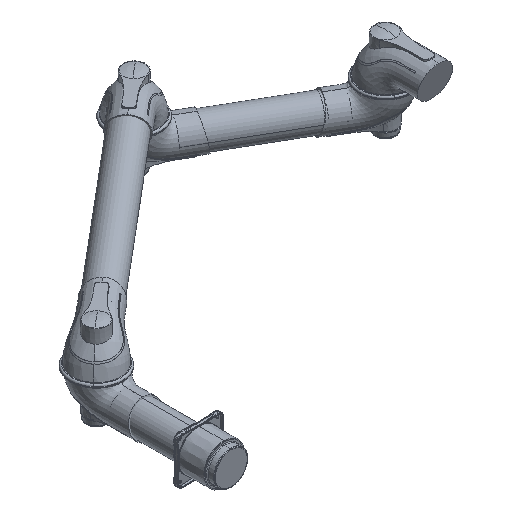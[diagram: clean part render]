
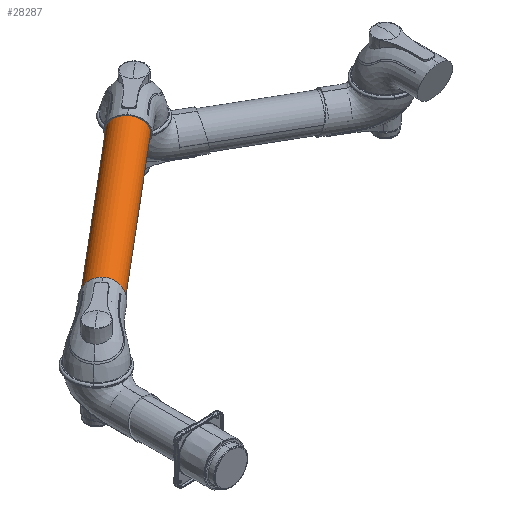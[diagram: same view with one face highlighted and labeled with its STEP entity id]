
A CAD part, isometric view. The second image highlights one B-rep face of the part: STEP entity #28287.
In plain terms, the highlighted cylindrical face has radius 39 mm (diameter 78 mm), a partial arc.
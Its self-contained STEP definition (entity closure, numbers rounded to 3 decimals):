
#28200=CARTESIAN_POINT('',(0.,0.,0.));
#28201=DIRECTION('',(1.,0.,0.));
#28202=DIRECTION('',(0.,1.,0.));
#28203=AXIS2_PLACEMENT_3D('',#28200,#28201,#28202);
#28208=DIRECTION('',(-1.,0.,0.));
#28209=VECTOR('',#28208,610.);
#28210=CARTESIAN_POINT('',(0.,39.,0.));
#28211=LINE('',#28210,#28209);
#28215=DIRECTION('',(-1.,0.,0.));
#28216=VECTOR('',#28215,610.);
#28217=CARTESIAN_POINT('',(0.,-39.,0.));
#28218=LINE('',#28217,#28216);
#28238=CARTESIAN_POINT('',(-610.,0.,0.));
#28239=DIRECTION('',(1.,0.,0.));
#28240=DIRECTION('',(0.,1.,0.));
#28241=AXIS2_PLACEMENT_3D('',#28238,#28239,#28240);
#28246=CARTESIAN_POINT('',(0.,39.,0.));
#28247=CARTESIAN_POINT('',(-610.,39.,0.));
#28248=VERTEX_POINT('',#28246);
#28249=VERTEX_POINT('',#28247);
#28250=CARTESIAN_POINT('',(0.,-39.,0.));
#28251=CARTESIAN_POINT('',(-610.,-39.,0.));
#28252=VERTEX_POINT('',#28250);
#28253=VERTEX_POINT('',#28251);
#28273=CARTESIAN_POINT('',(-640.5,0.,0.));
#28274=DIRECTION('',(1.,0.,0.));
#28275=DIRECTION('',(0.,-1.,0.));
#28276=AXIS2_PLACEMENT_3D('',#28273,#28274,#28275);
#28277=CYLINDRICAL_SURFACE('',#28276,39.);
#28279=ORIENTED_EDGE('',*,*,#28278,.F.);
#28280=ORIENTED_EDGE('',*,*,#28259,.T.);
#28282=ORIENTED_EDGE('',*,*,#28281,.T.);
#28284=ORIENTED_EDGE('',*,*,#28283,.F.);
#28285=EDGE_LOOP('',(#28279,#28280,#28282,#28284));
#28286=FACE_OUTER_BOUND('',#28285,.F.);
#28204=CIRCLE('',#28203,39.);
#28242=CIRCLE('',#28241,39.);
#28259=EDGE_CURVE('',#28248,#28252,#28204,.T.);
#28278=EDGE_CURVE('',#28248,#28249,#28211,.T.);
#28281=EDGE_CURVE('',#28252,#28253,#28218,.T.);
#28283=EDGE_CURVE('',#28249,#28253,#28242,.T.);
#28287=ADVANCED_FACE('',(#28286),#28277,.T.);
